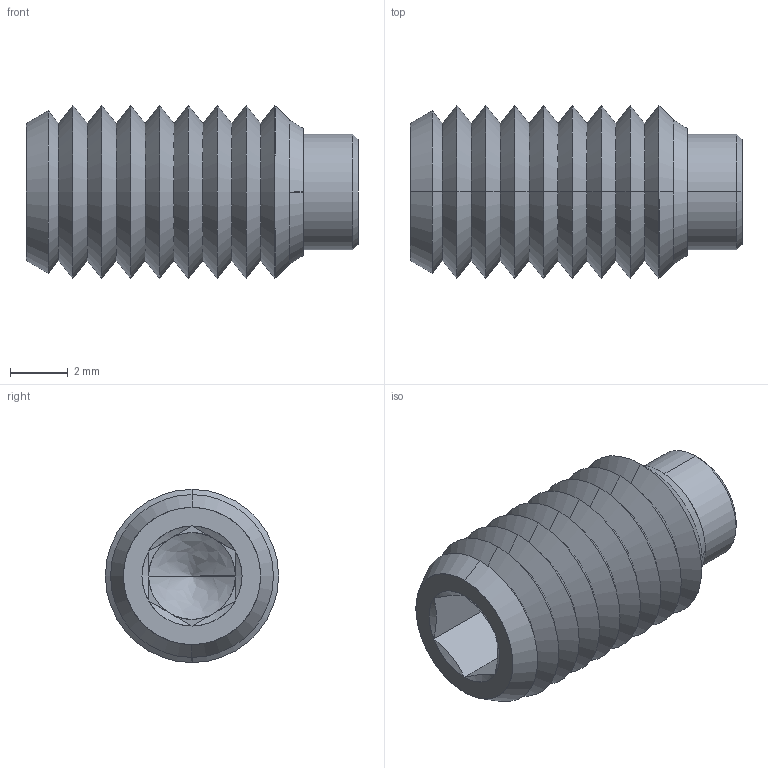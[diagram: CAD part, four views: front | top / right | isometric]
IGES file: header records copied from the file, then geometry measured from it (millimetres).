
Start section: SolidWorks IGES file using analytic representation for surfaces
Global section: file name: C:\Users\IanO\Desktop\P0120_v2_230406\P0120_v2_20230506_IGES\P0120.060-012.igs; native system: SolidWorks 2019; preprocessor: SolidWorks 2019; author: IanO; date: 230406.142348; units: millimetre
Bounding box: 11.5 x 6 x 6 mm (x, y, z)
Surface area: 406.8 mm2 (no closed solid volume)
Topology: 0 solids, 0 shells, 69 faces, 522 edges, 520 vertices
Faces by surface type: revolution 52, bspline 17
